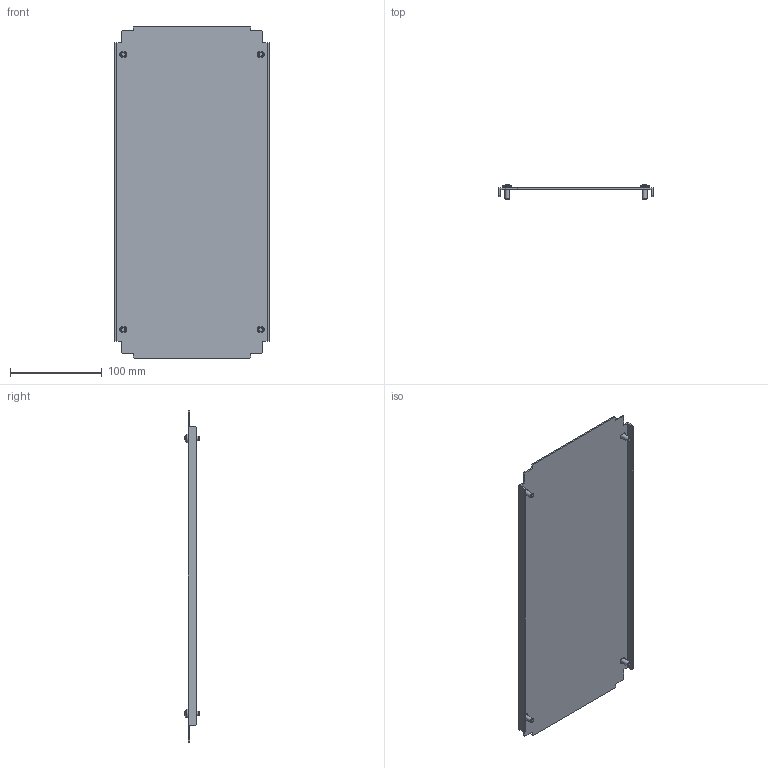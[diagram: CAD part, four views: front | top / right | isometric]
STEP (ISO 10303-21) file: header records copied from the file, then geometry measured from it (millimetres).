
FILE_DESCRIPTION (( 'STEP AP203' ), '1' );
FILE_NAME ('R5N1BP35.STEP', '2025-02-21T13:46:48', ( '' ), ( '' ), 'SwSTEP 2.0', 'SolidWorks 2022', '' );
FILE_SCHEMA (( 'CONFIG_CONTROL_DESIGN' ));
Length unit declared in the file: millimetre
Products named in the file (3): M5x12 DIN 7500 C Torx Zinc_stright; R5N1BP35; RB.1923.00.00.0_-18
Assembly tree (5 placements, depth 2):
  R5N1BP35
    RB.1923.00.00.0_-18
    M5x12 DIN 7500 C Torx Zinc_stright  x4
Bounding box: 168 x 15.56 x 362 mm (x, y, z)
Volume: 98858.6 mm3; surface area: 133011.7 mm2
Topology: 5 solids, 5 shells, 126 faces, 300 edges, 188 vertices
Faces by surface type: plane 86, cylinder 16, torus 8, cone 8, sphere 4, bspline 4
Full cylindrical faces by diameter (mm): 5 x4, 9.5 x4
Entity records: 2953 total; most frequent: CARTESIAN_POINT 624, ORIENTED_EDGE 400, DIRECTION 392, EDGE_CURVE 200, VECTOR 164, LINE 164, VERTEX_POINT 134, AXIS2_PLACEMENT_3D 114
